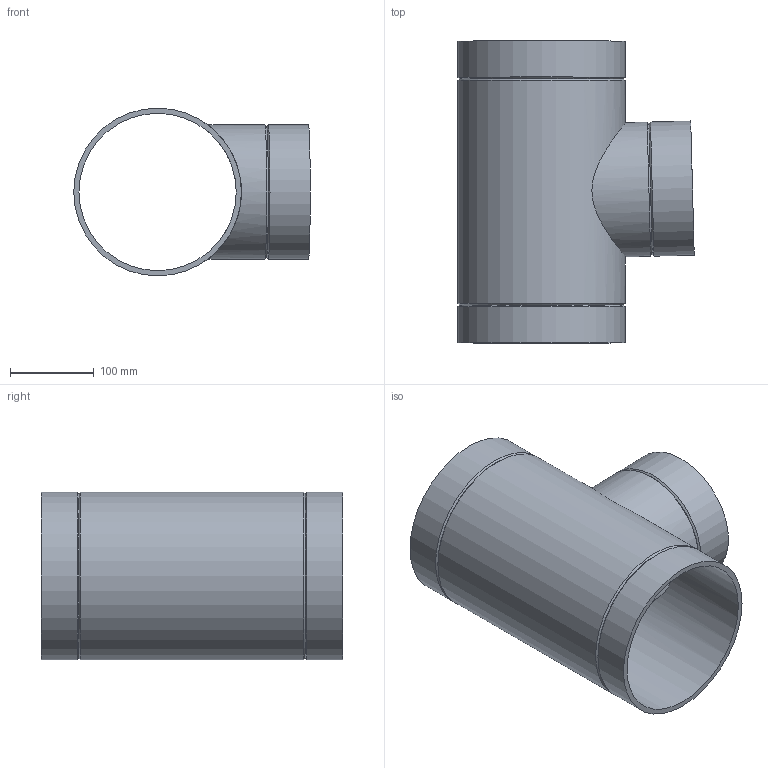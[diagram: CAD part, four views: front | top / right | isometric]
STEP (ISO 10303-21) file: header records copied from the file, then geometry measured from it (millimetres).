
FILE_DESCRIPTION(/* description */ (''),/* implementation_level */ '2;1');
FILE_NAME(/* name */ 'Z:\Geberit\Export\NewStep\370195.stp',/* time_stamp */ '2014-04-02T08:04:01+02:00',/* author */ ('nelson'),/* organization */ (''),/* preprocessor_version */ 'ST-DEVELOPER v15.2',/* originating_system */ 'Autodesk Inventor 2014',/* authorisation */ '');
FILE_SCHEMA (('AUTOMOTIVE_DESIGN { 1 0 10303 214 3 1 1 }'));
Length unit declared in the file: millimetre
Products named in the file (1): 370195
Bounding box: 282.03 x 360 x 200 mm (x, y, z)
Volume: 1525626.8 mm3; surface area: 507912.1 mm2
Topology: 1 solids, 1 shells, 16 faces, 37 edges, 23 vertices
Faces by surface type: cylinder 7, cone 6, plane 3
Full cylindrical faces by diameter (mm): 147.6 x1, 160 x2, 187.6 x1, 200 x3
Entity records: 507 total; most frequent: CARTESIAN_POINT 185, DIRECTION 64, EDGE_LOOP 34, ORIENTED_EDGE 34, AXIS2_PLACEMENT_3D 32, FACE_BOUND 22, VERTEX_POINT 17, EDGE_CURVE 17
